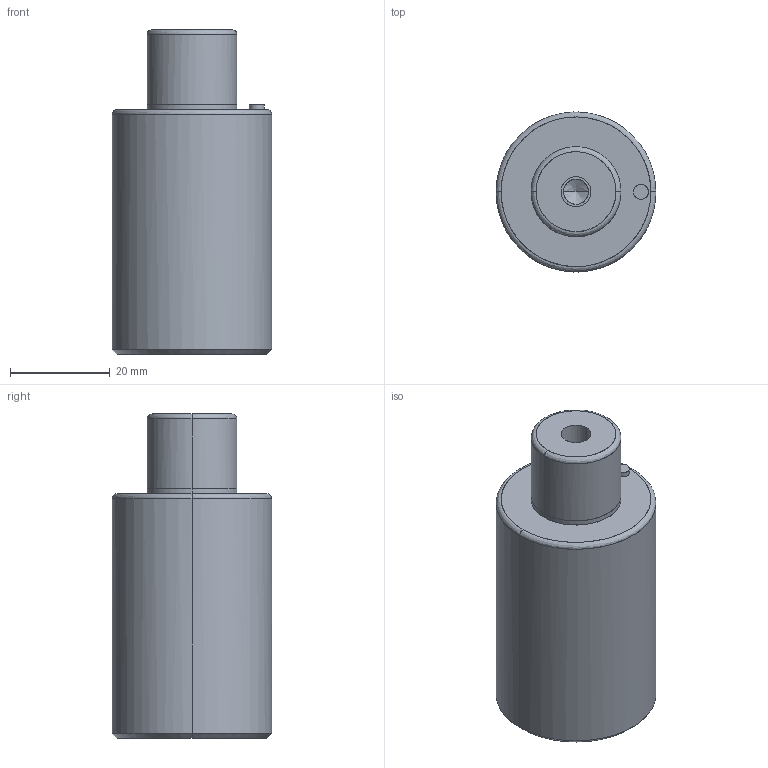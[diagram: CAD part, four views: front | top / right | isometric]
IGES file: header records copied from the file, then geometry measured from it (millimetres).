
Global section: file name: E:\UnigraphicsGraphicData\MISUMI_PRESS-PARTS\IGES\3d_gsc32-15_03815_r00.igs; native system: NX V5.0; preprocessor: UGS NX IGES V5.0; author: MISUMI; date: 20110105.160744; units: millimetre
Bounding box: 32 x 31.99 x 65 mm (x, y, z)
Surface area: 7722.1 mm2 (no closed solid volume)
Topology: 0 solids, 0 shells, 32 faces, 216 edges, 212 vertices
Faces by surface type: bspline 32
